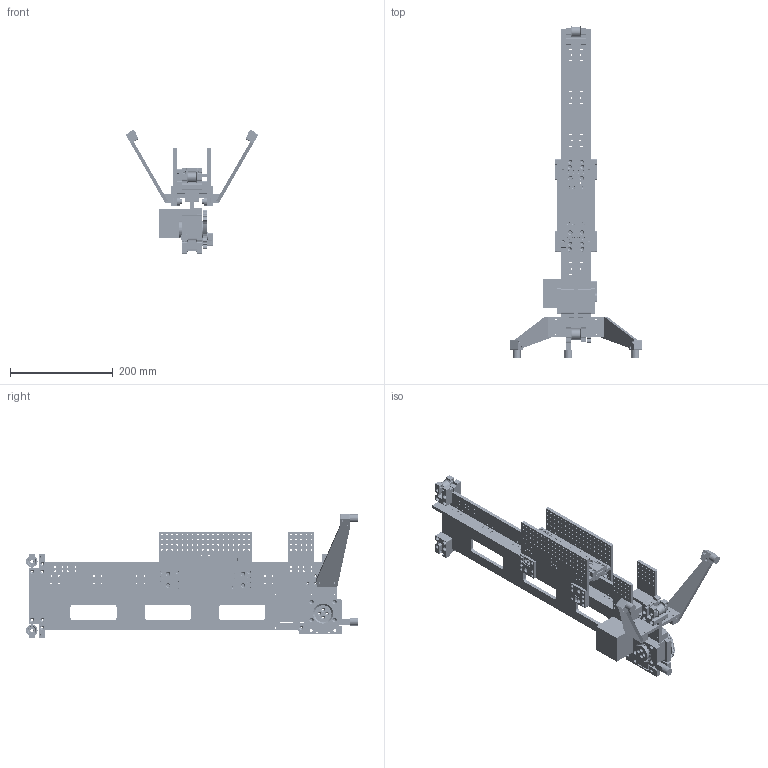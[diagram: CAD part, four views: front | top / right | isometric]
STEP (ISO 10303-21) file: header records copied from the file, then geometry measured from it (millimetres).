
FILE_DESCRIPTION(/* description */ (''),/* implementation_level */ '2;1');
FILE_NAME(/* name */ 'G:/Dropbox/CBA/projects/machines/uSSM/cad/DEX/DEX Displacement Exercise v38.step',/* time_stamp */ '2019-09-27T17:51:09-04:00',/* author */ (''),/* organization */ (''),/* preprocessor_version */ 'ST-DEVELOPER v18',/* originating_system */ 'Autodesk Translation Framework v8.6.0.1094',/* authorisation */ '');
FILE_SCHEMA (('AUTOMOTIVE_DESIGN { 1 0 10303 214 3 1 1 }'));
Products named in the file (13): DEX Displacement Exercise; Rail; Gantry; rct-lb-gt3-edge-idler; RCT N17 Blister; RCT N17 Blister Mirror; rct-lb-gt3-endmatter; rct-lb-perp-pincer-t; rct-lb-perp-pincer-x; rct-dex-squat; rct-dex-hearth; rct-lb-gt2-stray-idler; rct-dex-toes
Assembly tree (19 placements, depth 3):
  DEX Displacement Exercise
    Rail
    Gantry
    rct-lb-gt3-edge-idler  x3
    RCT N17 Blister  x3
    RCT N17 Blister Mirror  x3
    rct-lb-gt3-endmatter  x2
    rct-lb-perp-pincer-t
    rct-lb-perp-pincer-x
    rct-dex-squat
    rct-dex-hearth
      rct-lb-gt2-stray-idler
    rct-dex-toes
Bounding box: 258.56 x 647 x 241.22 mm (x, y, z)
Volume: 1785543.6 mm3; surface area: 660713.4 mm2
Topology: 66 solids, 66 shells, 4215 faces, 11588 edges, 7570 vertices
Faces by surface type: cylinder 2424, plane 1281, cone 498, bspline 12
Full cylindrical faces by diameter (mm): 3.15 x414, 3.25 x20, 3.4 x8, 3.5 x18, 3.8 x1, 4 x1, 5.4 x117, 5.5 x11, 6 x27, 7.25 x6, 7.4 x20, 7.5 x43, 7.9 x4, 8 x12, 9 x30, 11.08 x6, 12.6 x3, 15 x3, 16 x20, 19.4 x3, 22.4 x6, 30 x4, 31.5 x2, 33 x2, 39 x2, 42 x2
Entity records: 113554 total; most frequent: CARTESIAN_POINT 22023, DIRECTION 19862, ORIENTED_EDGE 18580, EDGE_CURVE 9290, AXIS2_PLACEMENT_3D 7572, VERTEX_POINT 6102, LINE 4718, VECTOR 4718
